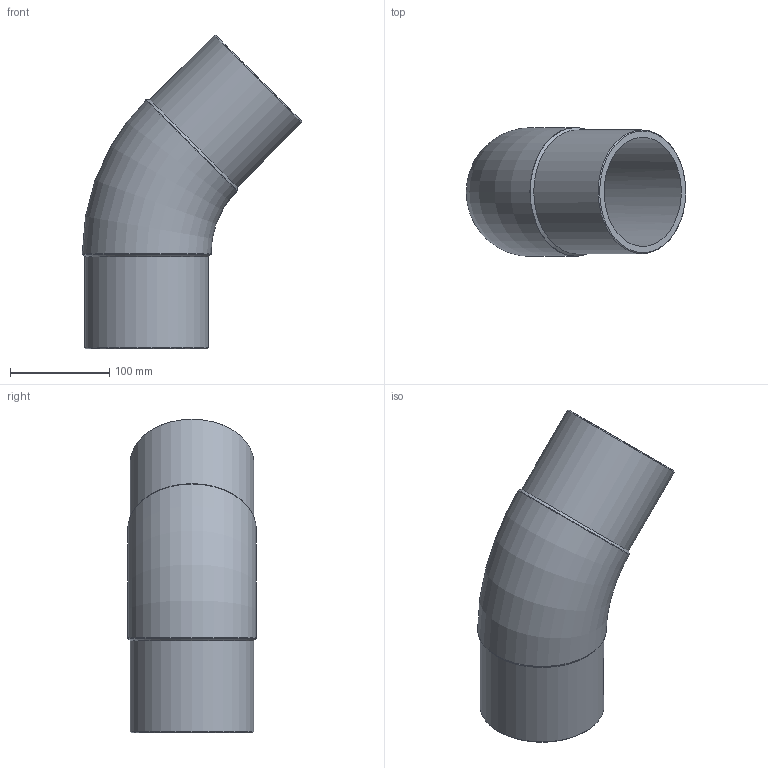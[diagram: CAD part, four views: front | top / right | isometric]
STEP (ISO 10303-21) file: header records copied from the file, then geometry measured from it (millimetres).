
FILE_DESCRIPTION(/* description */ ('Unknown'),/* implementation_level */ '2;1');
FILE_NAME(/* name */ 'G4P125B',/* time_stamp */ '2022-01-21T15:00:20+01:00',/* author */ ('Unknown'),/* organization */ ('Unknown'),/* preprocessor_version */ 'ST-DEVELOPER v18.1',/* originating_system */ 'Solid Edge',/* authorisation */ 'Unknown');
FILE_SCHEMA (('AUTOMOTIVE_DESIGN {1 0 10303 214 3 1 1}'));
Length unit declared in the file: millimetre
Products named in the file (1): G4P125B
Bounding box: 221.62 x 130 x 316.62 mm (x, y, z)
Volume: 1010945 mm3; surface area: 239193.7 mm2
Topology: 1 solids, 1 shells, 14 faces, 34 edges, 22 vertices
Faces by surface type: cylinder 6, cone 4, plane 2, torus 2
Full cylindrical faces by diameter (mm): 110.2 x2, 125 x2, 130 x2
Entity records: 368 total; most frequent: CARTESIAN_POINT 68, DIRECTION 60, ORIENTED_EDGE 38, AXIS2_PLACEMENT_3D 30, EDGE_LOOP 27, FACE_BOUND 27, EDGE_CURVE 19, VERTEX_POINT 18
